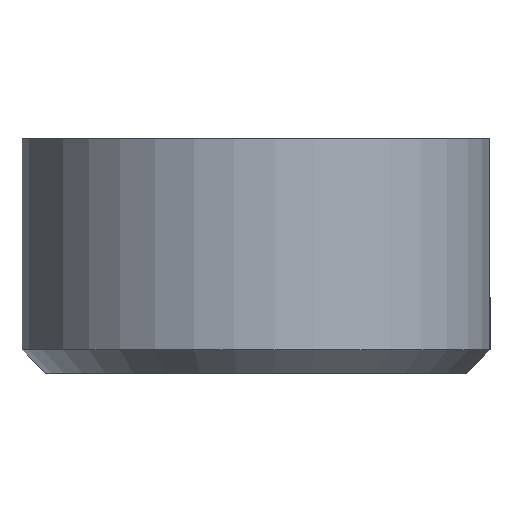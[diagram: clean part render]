
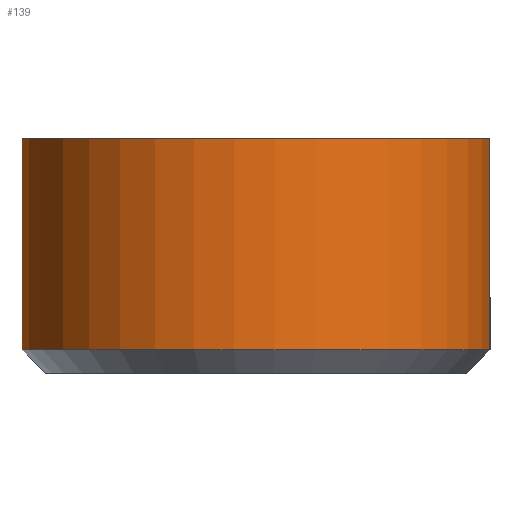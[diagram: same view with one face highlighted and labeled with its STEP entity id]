
A CAD part, front view. The second image highlights one B-rep face of the part: STEP entity #139.
In plain terms, the highlighted cylindrical face has radius 12.7 mm (diameter 25.4 mm), a partial arc.
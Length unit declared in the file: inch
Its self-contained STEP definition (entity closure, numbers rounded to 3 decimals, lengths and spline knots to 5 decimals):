
#5 = EDGE_CURVE ( 'NONE', #472, #634, #274, .T. ) ;
#58 = CARTESIAN_POINT ( 'NONE',  ( -0.49782, 0.04669, -0.5 ) ) ;
#61 = DIRECTION ( 'NONE',  ( 0.996, -0.093, 0. ) ) ;
#76 = VERTEX_POINT ( 'NONE', #591 ) ;
#90 = CARTESIAN_POINT ( 'NONE',  ( 0., 0., 0. ) ) ;
#102 = AXIS2_PLACEMENT_3D ( 'NONE', #320, #318, #428 ) ;
#106 = CYLINDRICAL_SURFACE ( 'NONE', #102, 0.5 ) ;
#139 = ADVANCED_FACE ( 'NONE', ( #664 ), #106, .T. ) ;
#194 = EDGE_CURVE ( 'NONE', #76, #634, #687, .T. ) ;
#215 = EDGE_LOOP ( 'NONE', ( #544, #676, #401, #548 ) ) ;
#239 = EDGE_CURVE ( 'NONE', #669, #76, #356, .T. ) ;
#262 = CIRCLE ( 'NONE', #732, 0.5 ) ;
#274 = LINE ( 'NONE', #58, #371 ) ;
#318 = DIRECTION ( 'NONE',  ( 0., 0., 1. ) ) ;
#320 = CARTESIAN_POINT ( 'NONE',  ( 0., 0., -0.5 ) ) ;
#338 = CARTESIAN_POINT ( 'NONE',  ( -0.49782, 0.04669, -0.45 ) ) ;
#356 = LINE ( 'NONE', #368, #422 ) ;
#366 = CARTESIAN_POINT ( 'NONE',  ( 0.49782, -0.04669, -0.45 ) ) ;
#368 = CARTESIAN_POINT ( 'NONE',  ( 0.49782, -0.04669, -0.5 ) ) ;
#371 = VECTOR ( 'NONE', #517, 39.37008 ) ;
#399 = CARTESIAN_POINT ( 'NONE',  ( 0., 0., -0.45 ) ) ;
#401 = ORIENTED_EDGE ( 'NONE', *, *, #194, .T. ) ;
#422 = VECTOR ( 'NONE', #437, 39.37008 ) ;
#428 = DIRECTION ( 'NONE',  ( -0.996, 0.093, 0. ) ) ;
#430 = CARTESIAN_POINT ( 'NONE',  ( -0.49782, 0.04669, 0. ) ) ;
#437 = DIRECTION ( 'NONE',  ( 0., 0., 1. ) ) ;
#472 = VERTEX_POINT ( 'NONE', #338 ) ;
#517 = DIRECTION ( 'NONE',  ( 0., 0., 1. ) ) ;
#528 = EDGE_CURVE ( 'NONE', #472, #669, #262, .T. ) ;
#544 = ORIENTED_EDGE ( 'NONE', *, *, #528, .T. ) ;
#548 = ORIENTED_EDGE ( 'NONE', *, *, #5, .F. ) ;
#579 = DIRECTION ( 'NONE',  ( 0., 0., 1. ) ) ;
#591 = CARTESIAN_POINT ( 'NONE',  ( 0.49782, -0.04669, 0. ) ) ;
#634 = VERTEX_POINT ( 'NONE', #430 ) ;
#654 = AXIS2_PLACEMENT_3D ( 'NONE', #90, #705, #657 ) ;
#657 = DIRECTION ( 'NONE',  ( 0.996, -0.093, 0. ) ) ;
#664 = FACE_OUTER_BOUND ( 'NONE', #215, .T. ) ;
#669 = VERTEX_POINT ( 'NONE', #366 ) ;
#676 = ORIENTED_EDGE ( 'NONE', *, *, #239, .T. ) ;
#687 = CIRCLE ( 'NONE', #654, 0.5 ) ;
#705 = DIRECTION ( 'NONE',  ( 0., 0., -1. ) ) ;
#732 = AXIS2_PLACEMENT_3D ( 'NONE', #399, #579, #61 ) ;
